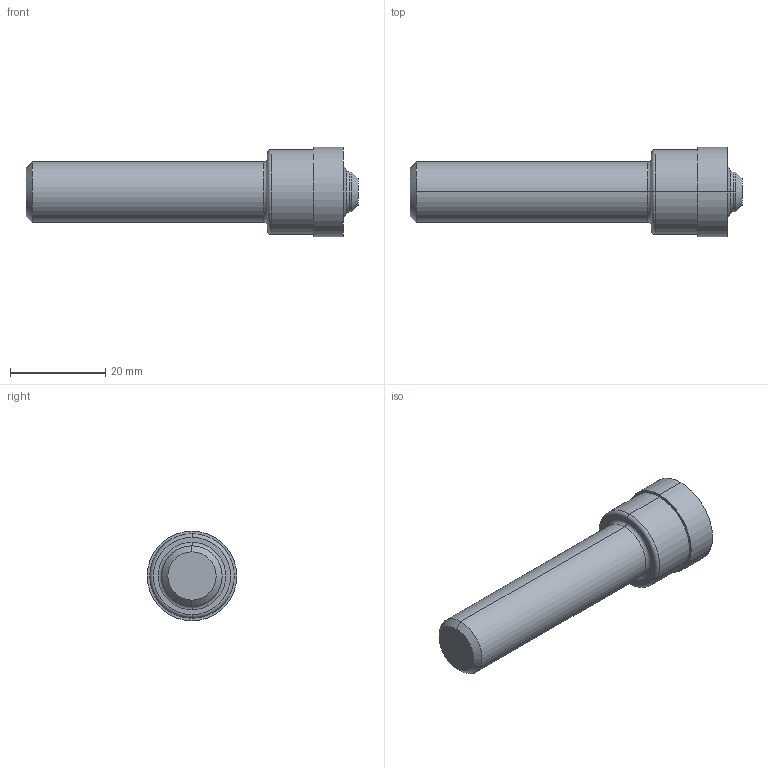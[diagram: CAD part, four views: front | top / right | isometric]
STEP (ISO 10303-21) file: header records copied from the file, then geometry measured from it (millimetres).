
FILE_DESCRIPTION (( 'STEP AP214' ), '1' );
FILE_NAME ('AS5202-02X.STEP', '2023-11-10T17:54:37', ( '' ), ( '' ), 'SwSTEP 2.0', 'SolidWorks 2022', '' );
FILE_SCHEMA (( 'AUTOMOTIVE_DESIGN' ));
Length unit declared in the file: inch
Products named in the file (1): AS5202-02X
Bounding box: 69.85 x 18.85 x 18.85 mm (x, y, z)
Volume: 10727.2 mm3; surface area: 3476.2 mm2
Topology: 1 solids, 1 shells, 25 faces, 48 edges, 28 vertices
Faces by surface type: cylinder 8, cone 6, torus 6, plane 5
Entity records: 680 total; most frequent: DIRECTION 134, CARTESIAN_POINT 102, ORIENTED_EDGE 96, AXIS2_PLACEMENT_3D 60, EDGE_CURVE 48, CIRCLE 34, VERTEX_POINT 28, EDGE_LOOP 28
